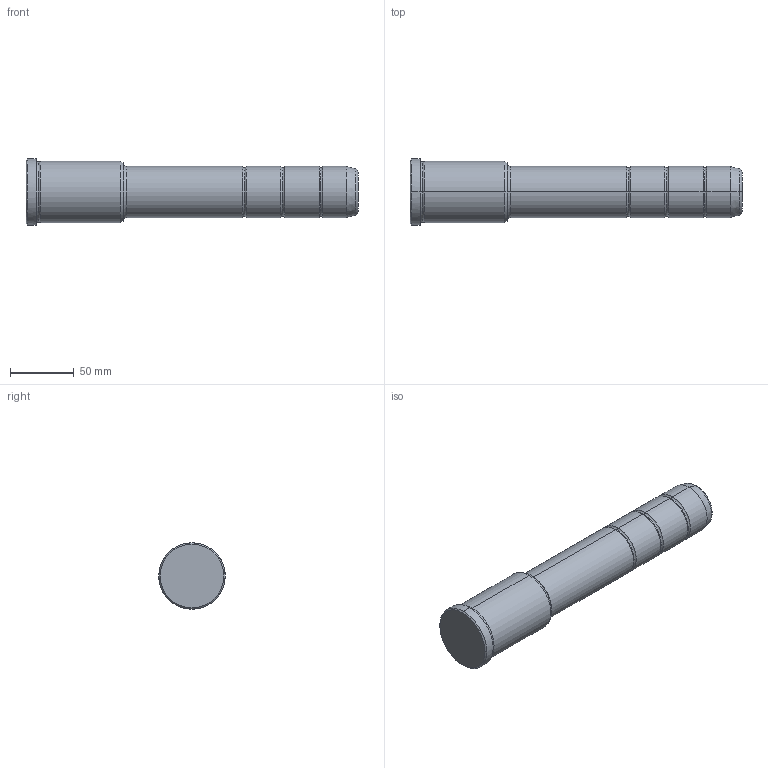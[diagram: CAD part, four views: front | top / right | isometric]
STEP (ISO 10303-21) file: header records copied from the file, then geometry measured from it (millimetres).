
FILE_DESCRIPTION(('CATIA V5 STEP Exchange'),'2;1');
FILE_NAME('C:\Users\Utente\Desktop\IO LAVORO\3D X SITO CF\X SITO\PLASTICA\351\351-40X76X260.stp','2021-10-07T14:25:54+00:00',('none'),('none'),'CATIA Version 5 Release 20 GA (IN-10)','CATIA V5 STEP AP203','none');
FILE_SCHEMA(('CONFIG_CONTROL_DESIGN'));
Length unit declared in the file: millimetre
Products named in the file (1): 351-40X76X260
Bounding box: 260 x 52 x 52 mm (x, y, z)
Volume: 368810.2 mm3; surface area: 38466.2 mm2
Topology: 1 solids, 1 shells, 42 faces, 118 edges, 80 vertices
Faces by surface type: torus 20, cylinder 12, cone 6, plane 4
Entity records: 1472 total; most frequent: CARTESIAN_POINT 353, ORIENTED_EDGE 236, DIRECTION 194, AXIS2_PLACEMENT_3D 135, EDGE_CURVE 118, CIRCLE 92, VERTEX_POINT 80, EDGE_LOOP 44
